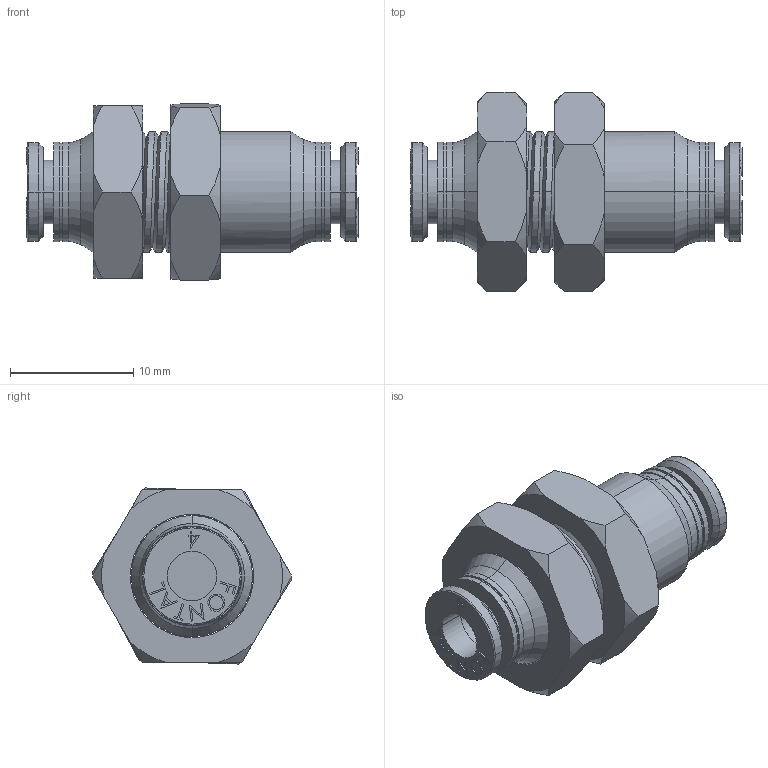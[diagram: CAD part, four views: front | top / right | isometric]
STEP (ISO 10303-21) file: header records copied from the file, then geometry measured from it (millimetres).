
FILE_DESCRIPTION (( 'STEP AP203' ), '1' );
FILE_NAME ('FPM4.STEP', '2016-01-14T21:14:07', ( '' ), ( '' ), 'SwSTEP 2.0', 'SolidWorks 2014', '' );
FILE_SCHEMA (( 'CONFIG_CONTROL_DESIGN' ));
Length unit declared in the file: millimetre
Products named in the file (4): FPM4-B; FPM4-A; FPC4-01-A; FPM4
Assembly tree (5 placements, depth 2):
  FPM4
    FPM4-A
    FPC4-01-A  x2
    FPM4-B  x2
Bounding box: 26.9 x 16.17 x 14.27 mm (x, y, z)
Volume: 2211.8 mm3; surface area: 2400.8 mm2
Topology: 5 solids, 5 shells, 283 faces, 711 edges, 468 vertices
Faces by surface type: plane 170, cylinder 53, cone 36, bspline 20, torus 4
Entity records: 7453 total; most frequent: CARTESIAN_POINT 3049, ORIENTED_EDGE 854, DIRECTION 759, EDGE_CURVE 427, VERTEX_POINT 280, VECTOR 255, LINE 255, AXIS2_PLACEMENT_3D 252
